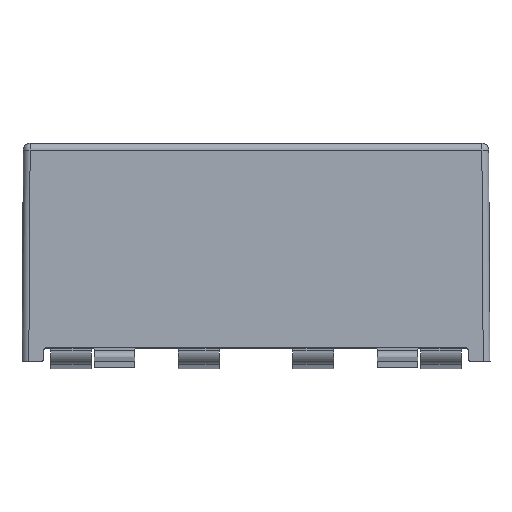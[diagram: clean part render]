
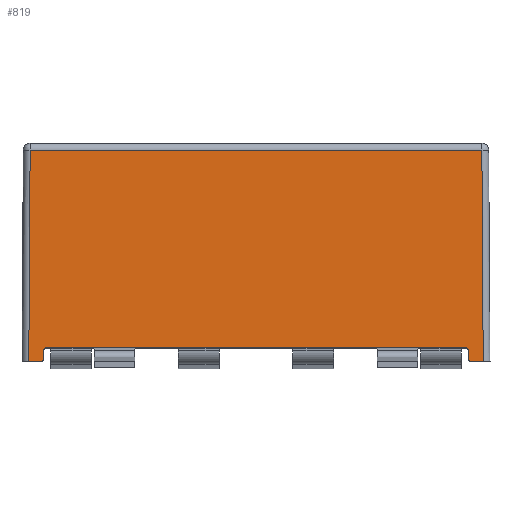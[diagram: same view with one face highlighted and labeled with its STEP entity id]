
A CAD part, top view. The second image highlights one B-rep face of the part: STEP entity #819.
In plain terms, the highlighted planar face has unit normal (0, 0.006, 1).
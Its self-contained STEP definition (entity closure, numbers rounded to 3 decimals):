
#161 = ORIENTED_EDGE ( 'NONE', *, *, #4302, .T. ) ;
#248 = CARTESIAN_POINT ( 'NONE',  ( 8.35, -7.958, 5.25 ) ) ;
#353 = LINE ( 'NONE', #8887, #1316 ) ;
#445 = DIRECTION ( 'NONE',  ( 0., -1., 0.006 ) ) ;
#819 = ADVANCED_FACE ( 'NONE', ( #6754 ), #8245, .T. ) ;
#830 = CARTESIAN_POINT ( 'NONE',  ( -8.35, -8.01, 5.25 ) ) ;
#890 = VERTEX_POINT ( 'NONE', #4017 ) ;
#946 = CARTESIAN_POINT ( 'NONE',  ( 8.301, -0.248, 5.201 ) ) ;
#971 = CARTESIAN_POINT ( 'NONE',  ( 7.806, -7.911, 5.249 ) ) ;
#978 = EDGE_LOOP ( 'NONE', ( #7117, #5250, #161, #3907, #3441, #7841, #8794, #7306, #7557, #3206, #3816, #5958 ) ) ;
#1022 = CARTESIAN_POINT ( 'NONE',  ( -7.806, -7.911, 5.249 ) ) ;
#1053 = CARTESIAN_POINT ( 'NONE',  ( -7.906, -8.01, 5.25 ) ) ;
#1153 = CARTESIAN_POINT ( 'NONE',  ( 7.906, -8.01, 5.25 ) ) ;
#1179 = VECTOR ( 'NONE', #6047, 1000. ) ;
#1316 = VECTOR ( 'NONE', #3181, 1000. ) ;
#1317 = DIRECTION ( 'NONE',  ( -0.006, 1., -0.006 ) ) ;
#1447 = VERTEX_POINT ( 'NONE', #1022 ) ;
#1460 = DIRECTION ( 'NONE',  ( -0.006, -1., 0.006 ) ) ;
#1611 = LINE ( 'NONE', #8186, #6944 ) ;
#1651 =( BOUNDED_CURVE ( )  B_SPLINE_CURVE ( 3, ( #3218, #1935, #4060, #7579 ),
 .UNSPECIFIED., .F., .T. ) 
 B_SPLINE_CURVE_WITH_KNOTS ( ( 4, 4 ),
 ( 0., 1.565 ),
 .UNSPECIFIED. ) 
 CURVE ( )  GEOMETRIC_REPRESENTATION_ITEM ( )  RATIONAL_B_SPLINE_CURVE ( ( 1., 0.806, 0.806, 1. ) ) 
 REPRESENTATION_ITEM ( '' )  );
#1746 = CARTESIAN_POINT ( 'NONE',  ( 0., -8.01, 5.25 ) ) ;
#1849 = CARTESIAN_POINT ( 'NONE',  ( 0., -8.01, 5.25 ) ) ;
#1895 = DIRECTION ( 'NONE',  ( 0., 0.006, 1. ) ) ;
#1935 = CARTESIAN_POINT ( 'NONE',  ( 7.762, -7.51, 5.247 ) ) ;
#1969 = CARTESIAN_POINT ( 'NONE',  ( -7.803, -7.551, 5.247 ) ) ;
#2010 = VERTEX_POINT ( 'NONE', #7587 ) ;
#2025 = EDGE_CURVE ( 'NONE', #3376, #9060, #353, .T. ) ;
#2047 = CARTESIAN_POINT ( 'NONE',  ( -7.803, -7.477, 5.247 ) ) ;
#2185 = CARTESIAN_POINT ( 'NONE',  ( -8.301, -0.248, 5.201 ) ) ;
#2242 = CARTESIAN_POINT ( 'NONE',  ( -7.806, -7.911, 5.249 ) ) ;
#2404 = EDGE_CURVE ( 'NONE', #6005, #2701, #4229, .T. ) ;
#2484 = VERTEX_POINT ( 'NONE', #946 ) ;
#2593 = DIRECTION ( 'NONE',  ( -1., 0., 0. ) ) ;
#2683 = CARTESIAN_POINT ( 'NONE',  ( -8.55, -0.248, 5.201 ) ) ;
#2701 = VERTEX_POINT ( 'NONE', #830 ) ;
#2894 = VECTOR ( 'NONE', #1460, 1000. ) ;
#2903 = CARTESIAN_POINT ( 'NONE',  ( 0., -8.01, 5.25 ) ) ;
#3181 = DIRECTION ( 'NONE',  ( 1., 0., 0. ) ) ;
#3206 = ORIENTED_EDGE ( 'NONE', *, *, #3690, .T. ) ;
#3218 = CARTESIAN_POINT ( 'NONE',  ( 7.704, -7.51, 5.247 ) ) ;
#3285 = VERTEX_POINT ( 'NONE', #5221 ) ;
#3358 = CARTESIAN_POINT ( 'NONE',  ( -7.704, -7.51, 5.247 ) ) ;
#3376 = VERTEX_POINT ( 'NONE', #3358 ) ;
#3441 = ORIENTED_EDGE ( 'NONE', *, *, #7704, .T. ) ;
#3613 = CARTESIAN_POINT ( 'NONE',  ( -7.847, -8.01, 5.25 ) ) ;
#3690 = EDGE_CURVE ( 'NONE', #4934, #3376, #7275, .T. ) ;
#3731 = CARTESIAN_POINT ( 'NONE',  ( 7.906, -8.01, 5.25 ) ) ;
#3816 = ORIENTED_EDGE ( 'NONE', *, *, #2025, .T. ) ;
#3832 = VECTOR ( 'NONE', #8553, 1000. ) ;
#3907 = ORIENTED_EDGE ( 'NONE', *, *, #7959, .T. ) ;
#3910 = CARTESIAN_POINT ( 'NONE',  ( -7.804, -7.609, 5.247 ) ) ;
#4017 = CARTESIAN_POINT ( 'NONE',  ( 7.806, -7.911, 5.249 ) ) ;
#4060 = CARTESIAN_POINT ( 'NONE',  ( 7.803, -7.551, 5.247 ) ) ;
#4079 =( BOUNDED_CURVE ( )  B_SPLINE_CURVE ( 3, ( #7141, #3613, #5756, #2242 ),
 .UNSPECIFIED., .F., .F. ) 
 B_SPLINE_CURVE_WITH_KNOTS ( ( 4, 4 ),
 ( 3.142, 4.706 ),
 .UNSPECIFIED. ) 
 CURVE ( )  GEOMETRIC_REPRESENTATION_ITEM ( )  RATIONAL_B_SPLINE_CURVE ( ( 1., 0.806, 0.806, 1. ) ) 
 REPRESENTATION_ITEM ( '' )  );
#4229 = LINE ( 'NONE', #6928, #2894 ) ;
#4302 = EDGE_CURVE ( 'NONE', #5560, #3285, #7210, .T. ) ;
#4341 = VECTOR ( 'NONE', #2593, 1000. ) ;
#4503 = VECTOR ( 'NONE', #6216, 1000. ) ;
#4589 = EDGE_CURVE ( 'NONE', #6601, #2701, #8095, .T. ) ;
#4601 = EDGE_CURVE ( 'NONE', #890, #2010, #1611, .T. ) ;
#4934 = VERTEX_POINT ( 'NONE', #8129 ) ;
#5221 = CARTESIAN_POINT ( 'NONE',  ( 8.35, -8.01, 5.25 ) ) ;
#5250 = ORIENTED_EDGE ( 'NONE', *, *, #6309, .T. ) ;
#5481 = CARTESIAN_POINT ( 'NONE',  ( 7.704, -7.51, 5.247 ) ) ;
#5560 = VERTEX_POINT ( 'NONE', #3731 ) ;
#5756 = CARTESIAN_POINT ( 'NONE',  ( -7.806, -7.969, 5.25 ) ) ;
#5830 = VECTOR ( 'NONE', #7664, 1000. ) ;
#5958 = ORIENTED_EDGE ( 'NONE', *, *, #8621, .T. ) ;
#6005 = VERTEX_POINT ( 'NONE', #2185 ) ;
#6047 = DIRECTION ( 'NONE',  ( -1., 0., 0. ) ) ;
#6088 = CARTESIAN_POINT ( 'NONE',  ( -7.704, -7.51, 5.247 ) ) ;
#6216 = DIRECTION ( 'NONE',  ( 0.006, 1., -0.006 ) ) ;
#6309 = EDGE_CURVE ( 'NONE', #890, #5560, #8926, .T. ) ;
#6601 = VERTEX_POINT ( 'NONE', #1053 ) ;
#6754 = FACE_OUTER_BOUND ( 'NONE', #978, .T. ) ;
#6763 = CARTESIAN_POINT ( 'NONE',  ( 7.806, -7.969, 5.25 ) ) ;
#6865 = LINE ( 'NONE', #2047, #4503 ) ;
#6877 = CARTESIAN_POINT ( 'NONE',  ( -7.762, -7.51, 5.247 ) ) ;
#6928 = CARTESIAN_POINT ( 'NONE',  ( -8.35, -7.958, 5.25 ) ) ;
#6944 = VECTOR ( 'NONE', #1317, 1000. ) ;
#7068 = AXIS2_PLACEMENT_3D ( 'NONE', #1849, #1895, #445 ) ;
#7117 = ORIENTED_EDGE ( 'NONE', *, *, #4601, .F. ) ;
#7141 = CARTESIAN_POINT ( 'NONE',  ( -7.906, -8.01, 5.25 ) ) ;
#7210 = LINE ( 'NONE', #2903, #3832 ) ;
#7275 =( BOUNDED_CURVE ( )  B_SPLINE_CURVE ( 3, ( #3910, #1969, #6877, #6088 ),
 .UNSPECIFIED., .F., .F. ) 
 B_SPLINE_CURVE_WITH_KNOTS ( ( 4, 4 ),
 ( 4.719, 6.283 ),
 .UNSPECIFIED. ) 
 CURVE ( )  GEOMETRIC_REPRESENTATION_ITEM ( )  RATIONAL_B_SPLINE_CURVE ( ( 1., 0.806, 0.806, 1. ) ) 
 REPRESENTATION_ITEM ( '' )  );
#7303 = LINE ( 'NONE', #248, #5830 ) ;
#7306 = ORIENTED_EDGE ( 'NONE', *, *, #8358, .T. ) ;
#7412 = CARTESIAN_POINT ( 'NONE',  ( 7.847, -8.01, 5.25 ) ) ;
#7557 = ORIENTED_EDGE ( 'NONE', *, *, #9019, .T. ) ;
#7579 = CARTESIAN_POINT ( 'NONE',  ( 7.804, -7.609, 5.247 ) ) ;
#7587 = CARTESIAN_POINT ( 'NONE',  ( 7.804, -7.609, 5.247 ) ) ;
#7664 = DIRECTION ( 'NONE',  ( -0.006, 1., -0.006 ) ) ;
#7704 = EDGE_CURVE ( 'NONE', #2484, #6005, #8932, .T. ) ;
#7841 = ORIENTED_EDGE ( 'NONE', *, *, #2404, .T. ) ;
#7959 = EDGE_CURVE ( 'NONE', #3285, #2484, #7303, .T. ) ;
#8095 = LINE ( 'NONE', #1746, #1179 ) ;
#8129 = CARTESIAN_POINT ( 'NONE',  ( -7.804, -7.609, 5.247 ) ) ;
#8186 = CARTESIAN_POINT ( 'NONE',  ( 7.803, -7.477, 5.247 ) ) ;
#8245 = PLANE ( 'NONE',  #7068 ) ;
#8358 = EDGE_CURVE ( 'NONE', #6601, #1447, #4079, .T. ) ;
#8553 = DIRECTION ( 'NONE',  ( 1., 0., 0. ) ) ;
#8621 = EDGE_CURVE ( 'NONE', #9060, #2010, #1651, .T. ) ;
#8794 = ORIENTED_EDGE ( 'NONE', *, *, #4589, .F. ) ;
#8887 = CARTESIAN_POINT ( 'NONE',  ( 0., -7.51, 5.247 ) ) ;
#8926 =( BOUNDED_CURVE ( )  B_SPLINE_CURVE ( 3, ( #971, #6763, #7412, #1153 ),
 .UNSPECIFIED., .F., .F. ) 
 B_SPLINE_CURVE_WITH_KNOTS ( ( 4, 4 ),
 ( 1.577, 3.142 ),
 .UNSPECIFIED. ) 
 CURVE ( )  GEOMETRIC_REPRESENTATION_ITEM ( )  RATIONAL_B_SPLINE_CURVE ( ( 1., 0.806, 0.806, 1. ) ) 
 REPRESENTATION_ITEM ( '' )  );
#8932 = LINE ( 'NONE', #2683, #4341 ) ;
#9019 = EDGE_CURVE ( 'NONE', #1447, #4934, #6865, .T. ) ;
#9060 = VERTEX_POINT ( 'NONE', #5481 ) ;
